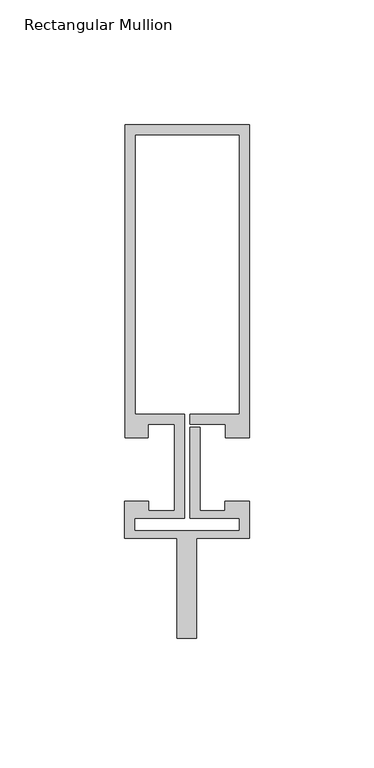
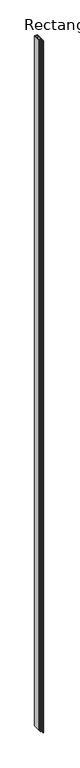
"""IFC4 building model written with IfcOpenShell, lengths in millimetres: member geometry, Rectangular Mullion : Reynaers_CW-50_Transom-Transom_125.5mm_Facecap-06B."""

from ifc_helpers import new_model, si_unit, frame, origin, place, context, project, spatial, polyline, outline, extrude, source, transform, mapped, element, save


def rectangular_mullion_da6e7a92(model_context):
    return source(origin(), model_context, "Body", "SweptSolid", [
        extrude(outline(polyline([(25.1995941, 12.7331291), (15.499, 12.7331291), (15.499, 18.1331291), (1.2995941, 18.1331291), (1.2995941, 22.1331291), (21.1995941, 22.1331291), (21.1995941, 134.2331291), (-20.8004059, 134.2331291), (-20.8004059, 22.1331291), (-0.9004059, 22.1331291), (-0.9004059, -19.7331291), (-20.994845, -19.7331291), (-20.994845, -24.6522629), (21.1995941, -24.6522629), (21.1995941, -19.7331291), (1.2995941, -19.7331291), (1.2995941, 16.7615089), (5.2995941, 16.7615089), (5.2995941, -16.7331291), (15.2996495, -16.7331291), (15.2996495, -12.7331291), (25.1995941, -12.7331291), (25.1995941, -27.7331291), (4.004855, -27.7331291), (4.004855, -67.7331291), (-3.995145, -67.7331291), (-3.995145, -27.7331291), (-24.994845, -27.7331291), (-24.994845, -12.7331291), (-15.2996495, -12.7331291), (-15.2996495, -16.7331291), (-4.9004059, -16.7331291), (-4.9004059, 18.1331291), (-15.499, 18.1331291), (-15.499, 12.7331291), (-24.8004059, 12.7331291), (-24.8004059, 138.2331291), (25.1995941, 138.2331291), (25.1995941, 12.7331291)])), frame((0.0, 0.0, -12000.0), z_axis=(0.0, 0.0, 1.0), x_axis=(1.0, 0.0, 0.0)), (0.0, 0.0, 1.0), 12000.0),
    ])


if __name__ == "__main__":
    model = new_model("IFC4")
    model_context = context("Model", 3, world=origin())
    ifc_project = project(units=[si_unit("LENGTHUNIT", "METRE", prefix="MILLI")], contexts=[model_context])
    site = spatial("IfcSite", under=ifc_project)
    building = spatial("IfcBuilding", under=site)
    placement = place(None, origin())
    rectangular_mullion_shape = rectangular_mullion_da6e7a92(model_context)
    element("IfcMember", 1, ObjectType="Rectangular Mullion : Reynaers_CW-50_Transom-Transom_125.5mm_Facecap-06B", at=placement, inside=building, context=model_context, shape_type="MappedRepresentation", body=[
        mapped(rectangular_mullion_shape, transform((0.0, 0.0, 0.0), x_axis=(1.0, 0.0, 0.0), y_axis=(0.0, 1.0, 0.0), z_axis=(0.0, 0.0, 1.0))),
    ])
    save(model, "model.ifc")
